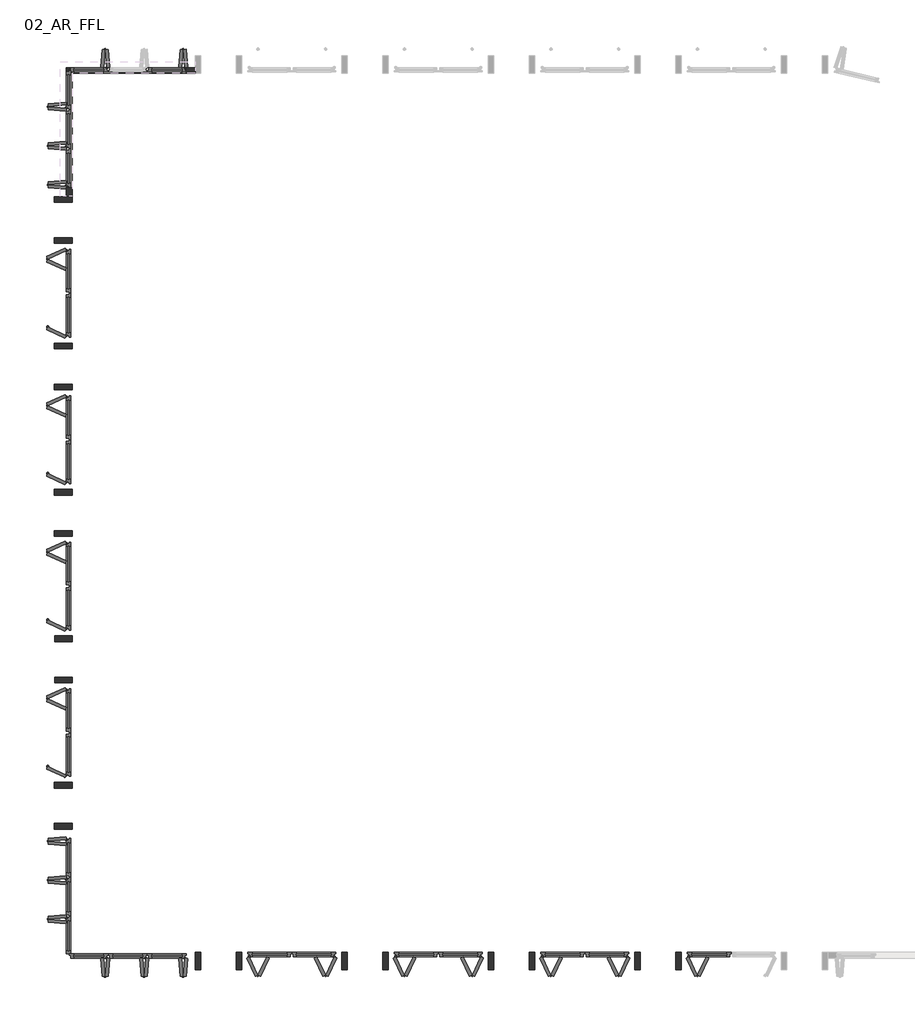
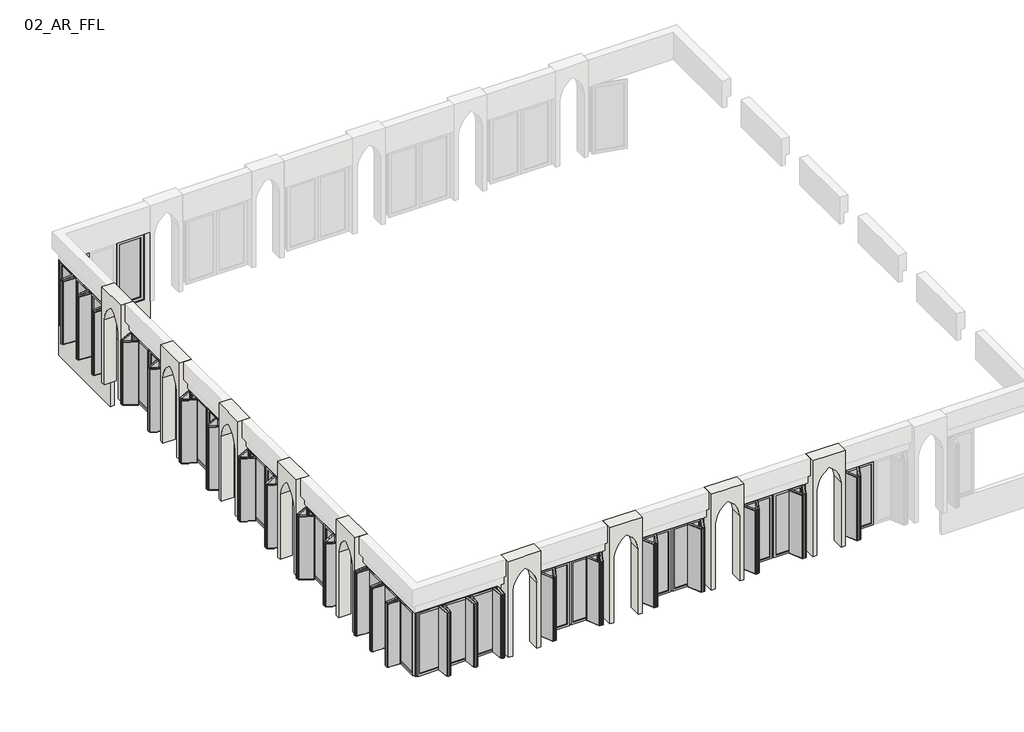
# One storey, part 1 of 2: 26 plates, 11 walls.
"""IFC4 building model written with IfcOpenShell, lengths in millimetres."""

from ifc_helpers import new_model, si_unit, point, frame, frame_2d, origin, place, context, project, spatial, polyline, circle_curve, trimmed, segment, composite_curve, outline, extrude, faceted_brep, transform, mapped, element, save
from ifc_brep_helpers import plane_surface, revolved_surface, advanced_brep
from components import vert_blinds_15b416f4, vert_blinds_bcc53d70, vert_blinds_c780c9f2, vert_blinds_017c0e32

model = new_model("IFC4")

# Units and contexts
model_context = context("Model", 3, world=origin())
ifc_project = project(units=[si_unit("LENGTHUNIT", "METRE", prefix="MILLI")], contexts=[model_context])

# Site, building, storey
site = spatial("IfcSite", under=ifc_project)
building = spatial("IfcBuilding", under=site)
storey = spatial("IfcBuildingStorey", under=building, Name="02_AR_FFL", Elevation=9000.0)

# Plates
placement = place(None, origin())
vert_blinds_shape = vert_blinds_15b416f4(model_context)
element("IfcPlate", 1, ObjectType="CURTAIN PANEL VODA STYLE BIFOLDING : VERT_BLINDS", at=placement, inside=storey, context=model_context, shape_type="MappedRepresentation", body=[
    mapped(vert_blinds_shape, transform((-9304.680357, -1154.430099, 9100.0), x_axis=(-1.0, 0.0, 0.0), y_axis=(0.0, -1.0, 0.0), z_axis=(0.0, 0.0, 1.0))),
])
element("IfcPlate", 2, ObjectType="CURTAIN PANEL VODA STYLE BIFOLDING : VERT_BLINDS", at=placement, inside=storey, context=model_context, shape_type="MappedRepresentation", body=[
    mapped(vert_blinds_shape, transform((-10638.0136904, -1154.430099, 9100.0), x_axis=(-1.0, 0.0, 0.0), y_axis=(0.0, -1.0, 0.0), z_axis=(0.0, 0.0, 1.0))),
])
vert_blinds_2_shape = vert_blinds_bcc53d70(model_context)
element("IfcPlate", 3, ObjectType="CURTAIN PANEL VODA STYLE BIFOLDING : VERT_BLINDS", at=placement, inside=storey, context=model_context, shape_type="MappedRepresentation", body=[
    mapped(vert_blinds_2_shape, transform((-10971.3470237, -1487.7634324, 9100.0), x_axis=(0.0, 1.0, 0.0), y_axis=(-1.0, 0.0, 0.0), z_axis=(0.0, 0.0, 1.0))),
])
element("IfcPlate", 4, ObjectType="CURTAIN PANEL VODA STYLE BIFOLDING : VERT_BLINDS", at=placement, inside=storey, context=model_context, shape_type="MappedRepresentation", body=[
    mapped(vert_blinds_2_shape, transform((-10971.3470237, -2821.0967657, 9100.0), x_axis=(0.0, 1.0, 0.0), y_axis=(-1.0, 0.0, 0.0), z_axis=(0.0, 0.0, 1.0))),
])
element("IfcPlate", 5, ObjectType="CURTAIN PANEL VODA STYLE BIFOLDING : VERT_BLINDS", at=placement, inside=storey, context=model_context, shape_type="MappedRepresentation", body=[
    mapped(vert_blinds_2_shape, transform((-10971.3470237, -2154.430099, 9100.0), x_axis=(0.0, 1.0, 0.0), y_axis=(-1.0, 0.0, 0.0), z_axis=(0.0, 0.0, 1.0))),
])
vert_blinds_3_shape = vert_blinds_c780c9f2(model_context)
element("IfcPlate", 6, ObjectType="CURTAIN PANEL VODA STYLE BIFOLDING : VERT_BLINDS", at=placement, inside=storey, context=model_context, shape_type="MappedRepresentation", body=[
    mapped(vert_blinds_3_shape, transform((-48.5775323, -16229.430099, 9100.0), x_axis=(1.0, 0.0, 0.0), y_axis=(0.0, 1.0, 0.0), z_axis=(0.0, 0.0, 1.0))),
])
element("IfcPlate", 7, ObjectType="CURTAIN PANEL VODA STYLE BIFOLDING : VERT_BLINDS", at=placement, inside=storey, context=model_context, shape_type="MappedRepresentation", body=[
    mapped(vert_blinds_3_shape, transform((-2548.5775323, -16229.430099, 9100.0), x_axis=(1.0, 0.0, 0.0), y_axis=(0.0, 1.0, 0.0), z_axis=(0.0, 0.0, 1.0))),
])
element("IfcPlate", 8, ObjectType="CURTAIN PANEL VODA STYLE BIFOLDING : VERT_BLINDS", at=placement, inside=storey, context=model_context, shape_type="MappedRepresentation", body=[
    mapped(vert_blinds_3_shape, transform((-5048.5775323, -16229.430099, 9100.0), x_axis=(1.0, 0.0, 0.0), y_axis=(0.0, 1.0, 0.0), z_axis=(0.0, 0.0, 1.0))),
])
element("IfcPlate", 9, ObjectType="CURTAIN PANEL VODA STYLE BIFOLDING : VERT_BLINDS", at=placement, inside=storey, context=model_context, shape_type="MappedRepresentation", body=[
    mapped(vert_blinds_3_shape, transform((-7548.5775323, -16229.430099, 9100.0), x_axis=(1.0, 0.0, 0.0), y_axis=(0.0, 1.0, 0.0), z_axis=(0.0, 0.0, 1.0))),
])
element("IfcPlate", 10, ObjectType="CURTAIN PANEL VODA STYLE BIFOLDING : VERT_BLINDS", at=placement, inside=storey, context=model_context, shape_type="MappedRepresentation", body=[
    mapped(vert_blinds_3_shape, transform((-10971.3871887, -4577.2397554, 9100.0), x_axis=(0.0, -1.0, 0.0), y_axis=(1.0, 0.0, 0.0), z_axis=(0.0, 0.0, 1.0))),
])
element("IfcPlate", 11, ObjectType="CURTAIN PANEL VODA STYLE BIFOLDING : VERT_BLINDS", at=placement, inside=storey, context=model_context, shape_type="MappedRepresentation", body=[
    mapped(vert_blinds_3_shape, transform((-10971.3871887, -7077.2397554, 9100.0), x_axis=(0.0, -1.0, 0.0), y_axis=(1.0, 0.0, 0.0), z_axis=(0.0, 0.0, 1.0))),
])
element("IfcPlate", 12, ObjectType="CURTAIN PANEL VODA STYLE BIFOLDING : VERT_BLINDS", at=placement, inside=storey, context=model_context, shape_type="MappedRepresentation", body=[
    mapped(vert_blinds_3_shape, transform((-10971.3871887, -9577.2397554, 9100.0), x_axis=(0.0, -1.0, 0.0), y_axis=(1.0, 0.0, 0.0), z_axis=(0.0, 0.0, 1.0))),
])
element("IfcPlate", 13, ObjectType="CURTAIN PANEL VODA STYLE BIFOLDING : VERT_BLINDS", at=placement, inside=storey, context=model_context, shape_type="MappedRepresentation", body=[
    mapped(vert_blinds_3_shape, transform((-10971.3871887, -12077.2397554, 9100.0), x_axis=(0.0, -1.0, 0.0), y_axis=(1.0, 0.0, 0.0), z_axis=(0.0, 0.0, 1.0))),
])
vert_blinds_4_shape = vert_blinds_017c0e32(model_context)
element("IfcPlate", 14, ObjectType="CURTAIN PANEL VODA STYLE BIFOLDING : VERT_BLINDS", at=placement, inside=storey, context=model_context, shape_type="MappedRepresentation", body=[
    mapped(vert_blinds_4_shape, transform((-1798.5775323, -16229.430099, 9100.0), x_axis=(-1.0, 0.0, 0.0), y_axis=(0.0, -1.0, 0.0), z_axis=(0.0, 0.0, 1.0))),
])
element("IfcPlate", 15, ObjectType="CURTAIN PANEL VODA STYLE BIFOLDING : VERT_BLINDS", at=placement, inside=storey, context=model_context, shape_type="MappedRepresentation", body=[
    mapped(vert_blinds_4_shape, transform((-4298.5775323, -16229.430099, 9100.0), x_axis=(-1.0, 0.0, 0.0), y_axis=(0.0, -1.0, 0.0), z_axis=(0.0, 0.0, 1.0))),
])
element("IfcPlate", 16, ObjectType="CURTAIN PANEL VODA STYLE BIFOLDING : VERT_BLINDS", at=placement, inside=storey, context=model_context, shape_type="MappedRepresentation", body=[
    mapped(vert_blinds_4_shape, transform((-6798.5775323, -16229.430099, 9100.0), x_axis=(-1.0, 0.0, 0.0), y_axis=(0.0, -1.0, 0.0), z_axis=(0.0, 0.0, 1.0))),
])
element("IfcPlate", 17, ObjectType="CURTAIN PANEL VODA STYLE BIFOLDING : VERT_BLINDS", at=placement, inside=storey, context=model_context, shape_type="MappedRepresentation", body=[
    mapped(vert_blinds_4_shape, transform((-10971.3871887, -5327.2397554, 9100.0), x_axis=(0.0, 1.0, 0.0), y_axis=(-1.0, 0.0, 0.0), z_axis=(0.0, 0.0, 1.0))),
])
element("IfcPlate", 18, ObjectType="CURTAIN PANEL VODA STYLE BIFOLDING : VERT_BLINDS", at=placement, inside=storey, context=model_context, shape_type="MappedRepresentation", body=[
    mapped(vert_blinds_4_shape, transform((-10971.3871887, -7827.2397554, 9100.0), x_axis=(0.0, 1.0, 0.0), y_axis=(-1.0, 0.0, 0.0), z_axis=(0.0, 0.0, 1.0))),
])
element("IfcPlate", 19, ObjectType="CURTAIN PANEL VODA STYLE BIFOLDING : VERT_BLINDS", at=placement, inside=storey, context=model_context, shape_type="MappedRepresentation", body=[
    mapped(vert_blinds_4_shape, transform((-10971.3871887, -10327.2397554, 9100.0), x_axis=(0.0, 1.0, 0.0), y_axis=(-1.0, 0.0, 0.0), z_axis=(0.0, 0.0, 1.0))),
])
element("IfcPlate", 20, ObjectType="CURTAIN PANEL VODA STYLE BIFOLDING : VERT_BLINDS", at=placement, inside=storey, context=model_context, shape_type="MappedRepresentation", body=[
    mapped(vert_blinds_4_shape, transform((-10971.3871887, -12827.2397554, 9100.0), x_axis=(0.0, 1.0, 0.0), y_axis=(-1.0, 0.0, 0.0), z_axis=(0.0, 0.0, 1.0))),
])
element("IfcPlate", 21, ObjectType="CURTAIN PANEL VODA STYLE BIFOLDING : VERT_BLINDS", at=placement, inside=storey, context=model_context, shape_type="MappedRepresentation", body=[
    mapped(vert_blinds_2_shape, transform((-9304.680357, -16254.430099, 9100.0), x_axis=(-1.0, 0.0, 0.0), y_axis=(0.0, -1.0, 0.0), z_axis=(0.0, 0.0, 1.0))),
])
element("IfcPlate", 22, ObjectType="CURTAIN PANEL VODA STYLE BIFOLDING : VERT_BLINDS", at=placement, inside=storey, context=model_context, shape_type="MappedRepresentation", body=[
    mapped(vert_blinds_2_shape, transform((-9971.3470237, -16254.430099, 9100.0), x_axis=(-1.0, 0.0, 0.0), y_axis=(0.0, -1.0, 0.0), z_axis=(0.0, 0.0, 1.0))),
])
element("IfcPlate", 23, ObjectType="CURTAIN PANEL VODA STYLE BIFOLDING : VERT_BLINDS", at=placement, inside=storey, context=model_context, shape_type="MappedRepresentation", body=[
    mapped(vert_blinds_2_shape, transform((-10638.0136904, -16254.430099, 9100.0), x_axis=(-1.0, 0.0, 0.0), y_axis=(0.0, -1.0, 0.0), z_axis=(0.0, 0.0, 1.0))),
])
element("IfcPlate", 24, ObjectType="CURTAIN PANEL VODA STYLE BIFOLDING : VERT_BLINDS", at=placement, inside=storey, context=model_context, shape_type="MappedRepresentation", body=[
    mapped(vert_blinds_shape, transform((-10971.3470237, -15921.0967657, 9100.0), x_axis=(0.0, -1.0, 0.0), y_axis=(1.0, 0.0, 0.0), z_axis=(0.0, 0.0, 1.0))),
])
element("IfcPlate", 25, ObjectType="CURTAIN PANEL VODA STYLE BIFOLDING : VERT_BLINDS", at=placement, inside=storey, context=model_context, shape_type="MappedRepresentation", body=[
    mapped(vert_blinds_shape, transform((-10971.3470237, -14587.7634324, 9100.0), x_axis=(0.0, -1.0, 0.0), y_axis=(1.0, 0.0, 0.0), z_axis=(0.0, 0.0, 1.0))),
])
element("IfcPlate", 26, ObjectType="CURTAIN PANEL VODA STYLE BIFOLDING : VERT_BLINDS", at=placement, inside=storey, context=model_context, shape_type="MappedRepresentation", body=[
    mapped(vert_blinds_shape, transform((-10971.3470237, -15254.430099, 9100.0), x_axis=(0.0, -1.0, 0.0), y_axis=(1.0, 0.0, 0.0), z_axis=(0.0, 0.0, 1.0))),
])

# Walls
element("IfcWall", 27, ObjectType="Generic - 100mm", at=placement, inside=storey, context=model_context, shape_type="Brep", body=[
    faceted_brep([(-8823.5775323, -1104.430099, 8300.0), (-8971.3470237, -1104.430099, 8300.0), (-11021.3871887, -1104.430099, 8300.0), (-11021.3871887, -1104.430099, 10800.0), (-10971.3470237, -1104.430099, 10800.0), (-10971.3470237, -1104.430099, 9100.0), (-8971.3470237, -1104.430099, 9100.0), (-8971.3470237, -1104.430099, 10800.0), (-8823.5775323, -1104.430099, 10800.0), (-10921.3871887, -1204.430099, 8300.0), (-8971.3470237, -1204.430099, 8300.0), (-8823.5775323, -1204.430099, 8300.0), (-8823.5775323, -1204.430099, 9000.0), (-8823.5775323, -1204.430099, 10800.0), (-8971.3470237, -1204.430099, 10800.0), (-8971.3470237, -1204.430099, 9100.0), (-10921.3871887, -1204.430099, 9100.0), (-10971.3470237, -1154.470264, 10800.0), (-10971.3470237, -1154.470264, 9100.0)], [[[0, 1, 2, 3, 4, 5, 6, 7, 8]], [[9, 10, 11, 12, 13, 14, 15, 16]], [[2, 1, 0, 11, 10, 9]], [[13, 8, 7, 14]], [[4, 3, 17]], [[0, 8, 13, 12, 11]], [[3, 2, 9, 16, 18, 17]], [[6, 15, 14, 7]], [[18, 5, 4, 17]], [[15, 6, 5, 18, 16]]]),
])
element("IfcWall", 28, ObjectType="Generic - 100mm", at=placement, inside=storey, context=model_context, shape_type="Brep", body=[
    faceted_brep([(-10921.3871887, -3304.430099, 8300.0), (-10921.3871887, -3154.430099, 8300.0), (-10921.3871887, -1204.430099, 8300.0), (-10921.3871887, -1204.430099, 9100.0), (-10921.3871887, -3154.430099, 9100.0), (-10921.3871887, -3154.430099, 10800.0), (-10921.3871887, -3304.430099, 10800.0), (-10921.3871887, -3304.430099, 9000.0), (-11021.3871887, -1104.430099, 8300.0), (-11021.3871887, -3154.430099, 8300.0), (-11021.3871887, -3304.430099, 8300.0), (-11021.3871887, -3304.430099, 10800.0), (-11021.3871887, -3154.430099, 10800.0), (-11021.3871887, -3154.430099, 9100.0), (-11021.3871887, -1154.430099, 9100.0), (-11021.3871887, -1154.430099, 10800.0), (-11021.3871887, -1104.430099, 10800.0), (-10971.3871887, -1154.430099, 10800.0), (-10971.3871887, -1154.430099, 9100.0)], [[[0, 1, 2, 3, 4, 5, 6, 7]], [[8, 9, 10, 11, 12, 13, 14, 15, 16]], [[2, 1, 0, 10, 9, 8]], [[11, 6, 5, 12]], [[16, 15, 17]], [[0, 7, 6, 11, 10]], [[2, 8, 16, 17, 18, 3]], [[14, 18, 17, 15]], [[4, 13, 12, 5]], [[18, 14, 13, 4, 3]]]),
])
element("IfcWall", 29, ObjectType="Generic - 300mm", at=placement, inside=storey, context=model_context, shape_type="SweptSolid", body=[
    extrude(outline(composite_curve([segment(polyline([(9000.0, -8823.5775323), (9000.0, -8723.5775323), (10695.8151206, -8723.5775323)]), True, "CONTINUOUS"), segment(trimmed(circle_curve(frame_2d((10640.1496657, -8083.8020309)), 642.1925997), [point((10695.8151206, -8723.5775323))], [point((11185.0936479, -8423.5775323))], True, "CARTESIAN"), True, "CONTINUOUS"), segment(trimmed(circle_curve(frame_2d((10640.1496657, -8763.3530337)), 642.1925997), [point((11185.0936479, -8423.5775323))], [point((10695.8151206, -8123.5775323))], True, "CARTESIAN"), True, "CONTINUOUS"), segment(polyline([(10695.8151206, -8123.5775323), (9000.0, -8123.5775323), (9000.0, -8023.5775323), (11500.0, -8023.5775323), (11500.0, -8823.5775323), (9000.0, -8823.5775323)]), True, "CONTINUOUS")], self_intersect=False)), frame((0.0, -16504.430099, 0.0), z_axis=(0.0, 1.0, 0.0), x_axis=(0.0, 0.0, 1.0)), (0.0, 0.0, 1.0), 300.0),
])
element("IfcWall", 30, ObjectType="Generic - 300mm", at=placement, inside=storey, context=model_context, shape_type="SweptSolid", body=[
    extrude(outline(composite_curve([segment(polyline([(9000.0, -6323.5775323), (9000.0, -6223.5775323), (10695.8151206, -6223.5775323)]), True, "CONTINUOUS"), segment(trimmed(circle_curve(frame_2d((10640.1496657, -5583.8020309)), 642.1925997), [point((10695.8151206, -6223.5775323))], [point((11185.0936479, -5923.5775323))], True, "CARTESIAN"), True, "CONTINUOUS"), segment(trimmed(circle_curve(frame_2d((10640.1496657, -6263.3530337)), 642.1925997), [point((11185.0936479, -5923.5775323))], [point((10695.8151206, -5623.5775323))], True, "CARTESIAN"), True, "CONTINUOUS"), segment(polyline([(10695.8151206, -5623.5775323), (9000.0, -5623.5775323), (9000.0, -5523.5775323), (11500.0, -5523.5775323), (11500.0, -6323.5775323), (9000.0, -6323.5775323)]), True, "CONTINUOUS")], self_intersect=False)), frame((0.0, -16504.430099, 0.0), z_axis=(0.0, 1.0, 0.0), x_axis=(0.0, 0.0, 1.0)), (0.0, 0.0, 1.0), 300.0),
])
element("IfcWall", 31, ObjectType="Generic - 300mm", at=placement, inside=storey, context=model_context, shape_type="SweptSolid", body=[
    extrude(outline(composite_curve([segment(polyline([(9000.0, -3823.5775323), (9000.0, -3723.5775323), (10695.8151206, -3723.5775323)]), True, "CONTINUOUS"), segment(trimmed(circle_curve(frame_2d((10640.1496657, -3083.8020309)), 642.1925997), [point((10695.8151206, -3723.5775323))], [point((11185.0936479, -3423.5775323))], True, "CARTESIAN"), True, "CONTINUOUS"), segment(trimmed(circle_curve(frame_2d((10640.1496657, -3763.3530337)), 642.1925997), [point((11185.0936479, -3423.5775323))], [point((10695.8151206, -3123.5775323))], True, "CARTESIAN"), True, "CONTINUOUS"), segment(polyline([(10695.8151206, -3123.5775323), (9000.0, -3123.5775323), (9000.0, -3023.5775323), (11500.0, -3023.5775323), (11500.0, -3823.5775323), (9000.0, -3823.5775323)]), True, "CONTINUOUS")], self_intersect=False)), frame((0.0, -16504.430099, 0.0), z_axis=(0.0, 1.0, 0.0), x_axis=(0.0, 0.0, 1.0)), (0.0, 0.0, 1.0), 300.0),
])
element("IfcWall", 32, ObjectType="Generic - 300mm", at=placement, inside=storey, context=model_context, shape_type="SweptSolid", body=[
    extrude(outline(composite_curve([segment(polyline([(9000.0, -1323.5775323), (9000.0, -1223.5775323), (10695.8151206, -1223.5775323)]), True, "CONTINUOUS"), segment(trimmed(circle_curve(frame_2d((10640.1496657, -583.8020309)), 642.1925997), [point((10695.8151206, -1223.5775323))], [point((11185.0936479, -923.5775323))], True, "CARTESIAN"), True, "CONTINUOUS"), segment(trimmed(circle_curve(frame_2d((10640.1496657, -1263.3530337)), 642.1925997), [point((11185.0936479, -923.5775323))], [point((10695.8151206, -623.5775323))], True, "CARTESIAN"), True, "CONTINUOUS"), segment(polyline([(10695.8151206, -623.5775323), (9000.0, -623.5775323), (9000.0, -523.5775323), (11500.0, -523.5775323), (11500.0, -1323.5775323), (9000.0, -1323.5775323)]), True, "CONTINUOUS")], self_intersect=False)), frame((0.0, -16504.430099, 0.0), z_axis=(0.0, 1.0, 0.0), x_axis=(0.0, 0.0, 1.0)), (0.0, 0.0, 1.0), 300.0),
])
element("IfcWall", 33, ObjectType="Generic - 300mm", at=placement, inside=storey, context=model_context, shape_type="AdvancedBrep", body=[
    advanced_brep(
    [(-10923.5775323, -14104.430099, 9000.0), (-10923.5775323, -14004.430099, 9000.0), (-10923.5775323, -14004.430099, 10695.8151206), (-10923.5775323, -13704.430099, 11185.0936479), (-10923.5775323, -13404.430099, 10695.8151206), (-10923.5775323, -13404.430099, 9000.0), (-10923.5775323, -13304.430099, 9000.0), (-10923.5775323, -13304.430099, 11500.0), (-10923.5775323, -14104.430099, 11500.0), (-11223.5775323, -14104.430099, 9000.0), (-11223.5775323, -14104.430099, 11500.0), (-11223.5775323, -13304.430099, 11500.0), (-11223.5775323, -13304.430099, 9000.0), (-11223.5775323, -13404.430099, 9000.0), (-11223.5775323, -13404.430099, 10695.8151206), (-11223.5775323, -13704.430099, 11185.0936479), (-11223.5775323, -14004.430099, 10695.8151206), (-11223.5775323, -14004.430099, 9000.0), (-11023.5775323, -14104.430099, 9000.0), (-11023.5775323, -14004.430099, 9000.0)],
    [
        (0, 1),
        (1, 2),
        (2, 3, circle_curve(frame((-10923.5775323, -13364.6545976, 10640.1496657), z_axis=(-1.0, 0.0, 0.0), x_axis=(0.0, -1.0, 0.0)), 642.1925997)),
        (3, 4, circle_curve(frame((-10923.5775323, -14044.2056005, 10640.1496657), z_axis=(-1.0, 0.0, 0.0), x_axis=(0.0, -1.0, 0.0)), 642.1925997)),
        (4, 5),
        (5, 6),
        (6, 7),
        (7, 8),
        (8, 0),
        (9, 10),
        (10, 11),
        (11, 12),
        (12, 13),
        (13, 14),
        (14, 15, circle_curve(frame((-11223.5775323, -14044.2056005, 10640.1496657), z_axis=(1.0, 0.0, 0.0), x_axis=(0.0, -1.0, 0.0)), 642.1925997)),
        (15, 16, circle_curve(frame((-11223.5775323, -13364.6545976, 10640.1496657), z_axis=(1.0, 0.0, 0.0), x_axis=(0.0, -1.0, 0.0)), 642.1925997)),
        (16, 17),
        (17, 9),
        (0, 18),
        (18, 9),
        (17, 19),
        (19, 1),
        (6, 12),
        (11, 7),
        (8, 10),
        (16, 2),
        (4, 14),
        (13, 5),
        (15, 3),
    ],
    [
        plane_surface(frame((-10923.5775323, -14104.430099, 9000.0), z_axis=(1.0, 0.0, 0.0), x_axis=(0.0, 1.0, 0.0))),
        plane_surface(frame((-11223.5775323, -14104.430099, 9000.0), z_axis=(-1.0, 0.0, 0.0), x_axis=(0.0, -1.0, 0.0))),
        plane_surface(frame((-10923.5775323, -14104.430099, 9000.0), z_axis=(0.0, 0.0, -1.0), x_axis=(-1.0, 0.0, 0.0))),
        plane_surface(frame((-10923.5775323, -13304.430099, 9000.0), z_axis=(0.0, 1.0, 0.0), x_axis=(-1.0, 0.0, 0.0))),
        plane_surface(frame((-10923.5775323, -14104.430099, 11500.0), z_axis=(0.0, -1.0, 0.0), x_axis=(-1.0, 0.0, 0.0))),
        plane_surface(frame((-10923.5775323, -14004.430099, 9000.0), z_axis=(0.0, 1.0, 0.0), x_axis=(-1.0, 0.0, 0.0))),
        plane_surface(frame((-10923.5775323, -13404.430099, 10695.8151206), z_axis=(0.0, -1.0, 0.0), x_axis=(-1.0, 0.0, 0.0))),
        plane_surface(frame((-10923.5775323, -13404.430099, 9000.0), z_axis=(0.0, 0.0, -1.0), x_axis=(-1.0, 0.0, 0.0))),
        revolved_surface(polyline([(-11223.5775323, -14006.8471973, 10640.1496657), (-10923.5775323, -14006.8471973, 10640.1496657)]), (-11223.5775323, -13364.6545976, 10640.1496657), (-1.0, 0.0, 0.0)),
        revolved_surface(polyline([(-11223.5775323, -14686.3982002, 10640.1496657), (-10923.5775323, -14686.3982002, 10640.1496657)]), (-11223.5775323, -14044.2056005, 10640.1496657), (-1.0, 0.0, 0.0)),
        plane_surface(frame((-10923.5775323, -13304.430099, 11500.0), z_axis=(0.0, 0.0, 1.0), x_axis=(-1.0, 0.0, 0.0))),
    ],
    [
        (0, [[1, 2, 3, 4, 5, 6, 7, 8, 9]]),
        (1, [[10, 11, 12, 13, 14, 15, 16, 17, 18]]),
        (2, [[-1, 19, 20, -18, 21, 22]]),
        (3, [[-7, 23, -12, 24]]),
        (4, [[-9, 25, -10, -20, -19]]),
        (5, [[-2, -22, -21, -17, 26]]),
        (6, [[-5, 27, -14, 28]]),
        (7, [[-6, -28, -13, -23]]),
        (8, [[-3, -26, -16, 29]]),
        (9, [[-4, -29, -15, -27]]),
        (10, [[-8, -24, -11, -25]]),
    ],
),
])
element("IfcWall", 34, ObjectType="Generic - 300mm", at=placement, inside=storey, context=model_context, shape_type="AdvancedBrep", body=[
    advanced_brep(
    [(-10921.3871887, -11604.430099, 9000.0), (-10921.3871887, -11504.430099, 9000.0), (-10921.3871887, -11504.430099, 10695.8151206), (-10921.3871887, -11204.430099, 11185.0936479), (-10921.3871887, -10904.430099, 10695.8151206), (-10921.3871887, -10904.430099, 9000.0), (-10921.3871887, -10804.430099, 9000.0), (-10921.3871887, -10804.430099, 10800.0), (-10921.3871887, -10804.430099, 11500.0), (-10921.3871887, -11604.430099, 11500.0), (-10921.3871887, -11604.430099, 10800.0), (-11221.3871887, -11604.430099, 9000.0), (-11221.3871887, -11604.430099, 11500.0), (-11221.3871887, -10804.430099, 11500.0), (-11221.3871887, -10804.430099, 9000.0), (-11221.3871887, -10904.430099, 9000.0), (-11221.3871887, -10904.430099, 10695.8151206), (-11221.3871887, -11204.430099, 11185.0936479), (-11221.3871887, -11504.430099, 10695.8151206), (-11221.3871887, -11504.430099, 9000.0), (-10923.5775323, -11604.430099, 9000.0), (-10923.5775323, -11504.430099, 9000.0), (-10923.5775323, -10804.430099, 9000.0), (-10923.5775323, -10904.430099, 9000.0)],
    [
        (0, 1),
        (1, 2),
        (2, 3, circle_curve(frame((-10921.3871887, -10864.6545976, 10640.1496657), z_axis=(-1.0, 0.0, 0.0), x_axis=(0.0, -1.0, 0.0)), 642.1925997)),
        (3, 4, circle_curve(frame((-10921.3871887, -11544.2056005, 10640.1496657), z_axis=(-1.0, 0.0, 0.0), x_axis=(0.0, -1.0, 0.0)), 642.1925997)),
        (4, 5),
        (5, 6),
        (6, 7),
        (7, 8),
        (8, 9),
        (9, 10),
        (10, 0),
        (11, 12),
        (12, 13),
        (13, 14),
        (14, 15),
        (15, 16),
        (16, 17, circle_curve(frame((-11221.3871887, -11544.2056005, 10640.1496657), z_axis=(1.0, 0.0, 0.0), x_axis=(0.0, -1.0, 0.0)), 642.1925997)),
        (17, 18, circle_curve(frame((-11221.3871887, -10864.6545976, 10640.1496657), z_axis=(1.0, 0.0, 0.0), x_axis=(0.0, -1.0, 0.0)), 642.1925997)),
        (18, 19),
        (19, 11),
        (0, 20),
        (20, 11),
        (19, 21),
        (21, 1),
        (6, 22),
        (22, 14),
        (13, 8),
        (9, 12),
        (18, 2),
        (4, 16),
        (15, 23),
        (23, 5),
        (17, 3),
    ],
    [
        plane_surface(frame((-10921.3871887, -11604.430099, 9000.0), z_axis=(1.0, 0.0, 0.0), x_axis=(0.0, 1.0, 0.0))),
        plane_surface(frame((-11221.3871887, -11604.430099, 9000.0), z_axis=(-1.0, 0.0, 0.0), x_axis=(0.0, -1.0, 0.0))),
        plane_surface(frame((-10921.3871887, -11604.430099, 9000.0), z_axis=(0.0, 0.0, -1.0), x_axis=(-1.0, 0.0, 0.0))),
        plane_surface(frame((-10921.3871887, -10804.430099, 9000.0), z_axis=(0.0, 1.0, 0.0), x_axis=(-1.0, 0.0, 0.0))),
        plane_surface(frame((-10921.3871887, -11604.430099, 11500.0), z_axis=(0.0, -1.0, 0.0), x_axis=(-1.0, 0.0, 0.0))),
        plane_surface(frame((-10921.3871887, -11504.430099, 9000.0), z_axis=(0.0, 1.0, 0.0), x_axis=(-1.0, 0.0, 0.0))),
        plane_surface(frame((-10921.3871887, -10904.430099, 10695.8151206), z_axis=(0.0, -1.0, 0.0), x_axis=(-1.0, 0.0, 0.0))),
        plane_surface(frame((-10921.3871887, -10904.430099, 9000.0), z_axis=(0.0, 0.0, -1.0), x_axis=(-1.0, 0.0, 0.0))),
        revolved_surface(polyline([(-11221.3871887, -11506.8471973, 10640.1496657), (-10921.3871887, -11506.8471973, 10640.1496657)]), (-11221.3871887, -10864.6545976, 10640.1496657), (-1.0, 0.0, 0.0)),
        revolved_surface(polyline([(-11221.3871887, -12186.3982002, 10640.1496657), (-10921.3871887, -12186.3982002, 10640.1496657)]), (-11221.3871887, -11544.2056005, 10640.1496657), (-1.0, 0.0, 0.0)),
        plane_surface(frame((-10921.3871887, -10804.430099, 11500.0), z_axis=(0.0, 0.0, 1.0), x_axis=(-1.0, 0.0, 0.0))),
    ],
    [
        (0, [[1, 2, 3, 4, 5, 6, 7, 8, 9, 10, 11]]),
        (1, [[12, 13, 14, 15, 16, 17, 18, 19, 20]]),
        (2, [[-1, 21, 22, -20, 23, 24]]),
        (3, [[-8, -7, 25, 26, -14, 27]]),
        (4, [[-11, -10, 28, -12, -22, -21]]),
        (5, [[-2, -24, -23, -19, 29]]),
        (6, [[-5, 30, -16, 31, 32]]),
        (7, [[-6, -32, -31, -15, -26, -25]]),
        (8, [[-3, -29, -18, 33]]),
        (9, [[-4, -33, -17, -30]]),
        (10, [[-9, -27, -13, -28]]),
    ],
),
])
element("IfcWall", 35, ObjectType="Generic - 300mm", at=placement, inside=storey, context=model_context, shape_type="SweptSolid", body=[
    extrude(outline(composite_curve([segment(polyline([(-9104.430099, 9000.0), (-9104.430099, 11500.0), (-8304.430099, 11500.0), (-8304.430099, 9000.0), (-8404.430099, 9000.0), (-8404.430099, 10695.8151206)]), True, "CONTINUOUS"), segment(trimmed(circle_curve(frame_2d((-9044.2056005, 10640.1496657)), 642.1925997), [point((-8404.430099, 10695.8151206))], [point((-8704.430099, 11185.0936479))], True, "CARTESIAN"), True, "CONTINUOUS"), segment(trimmed(circle_curve(frame_2d((-8364.6545976, 10640.1496657)), 642.1925997), [point((-8704.430099, 11185.0936479))], [point((-9004.430099, 10695.8151206))], True, "CARTESIAN"), True, "CONTINUOUS"), segment(polyline([(-9004.430099, 10695.8151206), (-9004.430099, 9000.0), (-9104.430099, 9000.0)]), True, "CONTINUOUS")], self_intersect=False)), frame((-11223.5775323, 0.0, 0.0), z_axis=(1.0, 0.0, 0.0), x_axis=(0.0, 1.0, 0.0)), (0.0, 0.0, 1.0), 300.0),
])
element("IfcWall", 36, ObjectType="Generic - 300mm", at=placement, inside=storey, context=model_context, shape_type="SweptSolid", body=[
    extrude(outline(composite_curve([segment(polyline([(-6604.430099, 9000.0), (-6604.430099, 11500.0), (-5804.430099, 11500.0), (-5804.430099, 9000.0), (-5904.430099, 9000.0), (-5904.430099, 10695.8151206)]), True, "CONTINUOUS"), segment(trimmed(circle_curve(frame_2d((-6544.2056005, 10640.1496657)), 642.1925997), [point((-5904.430099, 10695.8151206))], [point((-6204.430099, 11185.0936479))], True, "CARTESIAN"), True, "CONTINUOUS"), segment(trimmed(circle_curve(frame_2d((-5864.6545976, 10640.1496657)), 642.1925997), [point((-6204.430099, 11185.0936479))], [point((-6504.430099, 10695.8151206))], True, "CARTESIAN"), True, "CONTINUOUS"), segment(polyline([(-6504.430099, 10695.8151206), (-6504.430099, 9000.0), (-6604.430099, 9000.0)]), True, "CONTINUOUS")], self_intersect=False)), frame((-11223.5775323, 0.0, 0.0), z_axis=(1.0, 0.0, 0.0), x_axis=(0.0, 1.0, 0.0)), (0.0, 0.0, 1.0), 300.0),
])
element("IfcWall", 37, ObjectType="Generic - 300mm", at=placement, inside=storey, context=model_context, shape_type="SweptSolid", body=[
    extrude(outline(composite_curve([segment(polyline([(-4104.430099, 9000.0), (-4104.430099, 11500.0), (-3304.430099, 11500.0), (-3304.430099, 9000.0), (-3404.430099, 9000.0), (-3404.430099, 10695.8151206)]), True, "CONTINUOUS"), segment(trimmed(circle_curve(frame_2d((-4044.2056005, 10640.1496657)), 642.1925997), [point((-3404.430099, 10695.8151206))], [point((-3704.430099, 11185.0936479))], True, "CARTESIAN"), True, "CONTINUOUS"), segment(trimmed(circle_curve(frame_2d((-3364.6545976, 10640.1496657)), 642.1925997), [point((-3704.430099, 11185.0936479))], [point((-4004.430099, 10695.8151206))], True, "CARTESIAN"), True, "CONTINUOUS"), segment(polyline([(-4004.430099, 10695.8151206), (-4004.430099, 9000.0), (-4104.430099, 9000.0)]), True, "CONTINUOUS")], self_intersect=False)), frame((-11223.5775323, 0.0, 0.0), z_axis=(1.0, 0.0, 0.0), x_axis=(0.0, 1.0, 0.0)), (0.0, 0.0, 1.0), 300.0),
])

save(model, "model.ifc")
